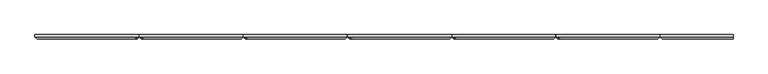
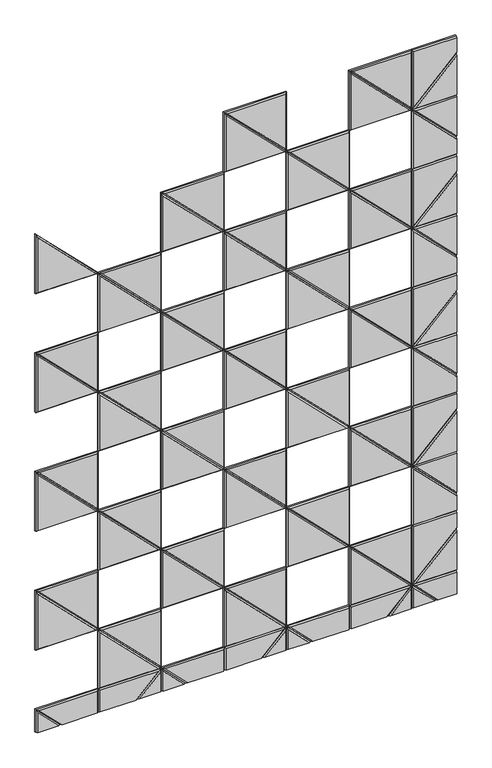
"""IFC4 building model written with IfcOpenShell, lengths in millimetres: proxy geometry, Wall_Akebia 5.3dm."""

from ifc_helpers import new_model, si_unit, origin, place, context, project, spatial, faceted_brep, source, transform, mapped, element, save


def generic_models_bfce4a0a(model_context):
    return source(origin(), model_context, "Body", "Brep", [
        faceted_brep([(4621.9486337, 12.0, 0.0), (4508.0, 12.0, 0.0), (4508.0, 12.0, 113.9486337), (4508.0, 5.999309, 113.9486337), (4621.9486337, 6.0, 0.0), (4613.4633524, 0.0, 0.0), (4513.998618, 0.0, 99.4647343), (4513.998618, 0.0, 0.0), (4508.0, 5.998618, 0.0)], [[[0, 1, 2]], [[0, 2, 3, 4]], [[5, 6, 7]], [[7, 6, 3, 8]], [[4, 3, 6, 5]], [[1, 8, 3, 2]], [[5, 7, 8, 1, 0, 4]]]),
        faceted_brep([(4621.9486337, 12.0, 0.0), (4507.998618, 12.0, 113.9500157), (4806.448618, 12.0, 113.9500157), (4806.448618, 12.0, 0.0), (4806.448618, 6.0, 113.9500157), (4507.998618, 6.0, 113.9500157), (4621.9486337, 6.0, 0.0), (4806.448618, 6.0, 0.0), (4630.4339151, 0.0, 0.0), (4800.448618, 0.0, 0.0), (4800.448618, 0.0, 107.9500157), (4522.4838994, 0.0, 107.9500157)], [[[0, 1, 2, 3]], [[4, 2, 1, 5]], [[0, 6, 5, 1]], [[7, 3, 2, 4]], [[8, 9, 10, 11]], [[4, 5, 11, 10]], [[6, 8, 11, 5]], [[9, 7, 4, 10]], [[9, 8, 6, 0, 3, 7]]]),
        faceted_brep([(5218.850088, 12.0, 0.0), (5104.898614, 12.0, 0.0), (5104.898614, 12.0, 113.951474), (5104.898614, 6.0, 0.0), (5104.898614, 6.0, 113.951474), (5218.850088, 6.0, 0.0), (5210.3648066, 0.0, 0.0), (5110.898614, 0.0, 99.4661926), (5110.898614, 0.0, 0.0)], [[[0, 1, 2]], [[3, 4, 2, 1]], [[0, 2, 4, 5]], [[6, 7, 8]], [[8, 7, 4, 3]], [[5, 4, 7, 6]], [[0, 5, 6, 8, 3, 1]]]),
        faceted_brep([(5218.850088, 12.0, 0.0), (5104.898614, 12.0, 113.951474), (5403.348614, 12.0, 113.951474), (5403.348614, 12.0, 0.0), (5403.348614, 6.0, 113.951474), (5104.898614, 6.0, 113.951474), (5218.850088, 6.0, 0.0), (5403.348614, 6.0, 0.0), (5227.3353694, 0.0, 0.0), (5397.348614, 0.0, 0.0), (5397.348614, 0.0, 107.951474), (5119.3838954, 0.0, 107.951474)], [[[0, 1, 2, 3]], [[4, 2, 1, 5]], [[0, 6, 5, 1]], [[7, 3, 2, 4]], [[8, 9, 10, 11]], [[4, 5, 11, 10]], [[6, 8, 11, 5]], [[9, 7, 4, 10]], [[0, 3, 7, 9, 8, 6]]]),
        faceted_brep([(5815.7515423, 12.0, 0.0), (5701.7988914, 12.0, 0.0), (5701.7988914, 12.0, 113.9526508), (5701.7988914, 6.0, 0.0), (5701.7988914, 6.0, 113.9526508), (5815.7515423, 6.0, 0.0), (5807.2662609, 0.0, 0.0), (5707.7988914, 0.0, 99.4673695), (5707.7988914, 0.0, 0.0)], [[[0, 1, 2]], [[3, 4, 2, 1]], [[0, 2, 4, 5]], [[6, 7, 8]], [[8, 7, 4, 3]], [[5, 4, 7, 6]], [[0, 5, 6, 8, 3, 1]]]),
        faceted_brep([(5815.7515423, 12.0, 0.0), (5701.7988914, 12.0, 113.9526508), (6000.2488914, 12.0, 113.9526508), (6000.2488914, 12.0, 0.0), (6000.2488914, 6.0, 113.9526508), (5701.7988914, 6.0, 113.9526508), (5815.7515423, 6.0, 0.0), (6000.2488914, 6.0, 0.0), (5824.2368236, 0.0, 0.0), (5994.2488914, 0.0, 0.0), (5994.2488914, 0.0, 107.9526508), (5716.2841728, 0.0, 107.9526508)], [[[0, 1, 2, 3]], [[4, 2, 1, 5]], [[0, 6, 5, 1]], [[7, 3, 2, 4]], [[8, 9, 10, 11]], [[4, 5, 11, 10]], [[6, 8, 11, 5]], [[9, 7, 4, 10]], [[0, 3, 7, 9, 8, 6]]]),
        faceted_brep([(6412.6529965, 12.0, 0.0), (6298.7017066, 12.0, 0.0), (6298.7017066, 12.0, 113.95129), (6298.7017066, 6.0, 0.0), (6298.7017066, 6.0, 113.95129), (6412.6529965, 6.0, 0.0), (6404.1677152, 0.0, 0.0), (6304.7017066, 0.0, 99.4660086), (6304.7017066, 0.0, 0.0)], [[[0, 1, 2]], [[3, 4, 2, 1]], [[0, 2, 4, 5]], [[6, 7, 8]], [[8, 7, 4, 3]], [[5, 4, 7, 6]], [[0, 5, 6, 8, 3, 1]]]),
        faceted_brep([(6508.0, 12.0, 0.0), (6412.6529965, 12.0, 0.0), (6298.7017066, 12.0, 113.95129), (6508.0, 12.0, 113.95129), (6508.0, 6.0, 113.95129), (6298.7017066, 6.0, 113.95129), (6412.6529965, 6.0, 0.0), (6421.1382779, 0.0, 0.0), (6508.0, 0.0, 0.0), (6508.0, 0.0, 107.95129), (6313.1869879, 0.0, 107.95129)], [[[0, 1, 2, 3]], [[4, 3, 2, 5]], [[1, 6, 5, 2]], [[7, 8, 9, 10]], [[9, 4, 5, 10]], [[6, 7, 10, 5]], [[7, 6, 1, 0, 8]], [[0, 3, 4, 9, 8]]]),
        faceted_brep([(6508.0, 12.0, 501.5529965), (6508.0, 12.0, 412.40129), (6298.7017066, 12.0, 412.40129), (6298.7017066, 12.0, 710.85129), (6298.7017066, 6.0, 412.40129), (6298.7017066, 6.0, 710.85129), (6508.0, 6.0, 501.5529965), (6508.0, 6.0, 412.40129), (6508.0, 0.0, 493.0677152), (6304.7017066, 0.0, 696.3660086), (6304.7017066, 0.0, 418.40129), (6508.0, 0.0, 418.40129)], [[[0, 1, 2, 3]], [[4, 5, 3, 2]], [[0, 3, 5, 6]], [[7, 4, 2, 1]], [[8, 9, 10, 11]], [[4, 10, 9, 5]], [[6, 5, 9, 8]], [[11, 10, 4, 7]], [[0, 6, 8, 11, 7, 1]]]),
        faceted_brep([(6508.0, 12.0, 501.5529965), (6298.7017066, 12.0, 710.85129), (6508.0, 12.0, 710.85129), (6508.0, 6.0, 710.85129), (6298.7017066, 6.0, 710.85129), (6508.0, 6.0, 501.5529965), (6508.0, 0.0, 510.0382779), (6508.0, 0.0, 704.85129), (6313.1869879, 0.0, 704.85129)], [[[0, 1, 2]], [[3, 2, 1, 4]], [[0, 5, 4, 1]], [[6, 7, 8]], [[7, 3, 4, 8]], [[5, 6, 8, 4]], [[0, 2, 3, 7, 6, 5]]]),
        faceted_brep([(6508.0, 12.0, 1098.4529965), (6508.0, 12.0, 1009.30129), (6298.7017066, 12.0, 1009.30129), (6298.7017066, 12.0, 1307.75129), (6298.7017066, 6.0, 1009.30129), (6298.7017066, 6.0, 1307.75129), (6508.0, 6.0, 1098.4529965), (6508.0, 6.0, 1009.30129), (6508.0, 0.0, 1089.9677152), (6304.7017066, 0.0, 1293.2660086), (6304.7017066, 0.0, 1015.30129), (6508.0, 0.0, 1015.30129)], [[[0, 1, 2, 3]], [[4, 5, 3, 2]], [[0, 3, 5, 6]], [[7, 4, 2, 1]], [[8, 9, 10, 11]], [[4, 10, 9, 5]], [[6, 5, 9, 8]], [[11, 10, 4, 7]], [[0, 6, 8, 11, 7, 1]]]),
        faceted_brep([(6508.0, 12.0, 1098.4529965), (6298.7017066, 12.0, 1307.75129), (6508.0, 12.0, 1307.75129), (6508.0, 6.0, 1307.75129), (6298.7017066, 6.0, 1307.75129), (6508.0, 6.0, 1098.4529965), (6508.0, 0.0, 1106.9382779), (6508.0, 0.0, 1301.75129), (6313.1869879, 0.0, 1301.75129)], [[[0, 1, 2]], [[3, 2, 1, 4]], [[0, 5, 4, 1]], [[6, 7, 8]], [[7, 3, 4, 8]], [[5, 6, 8, 4]], [[0, 2, 3, 7, 6, 5]]]),
        faceted_brep([(6508.0, 12.0, 1904.6518986), (6508.0, 12.0, 1695.3535333), (6298.7016346, 12.0, 1904.6518986), (6508.0, 6.0, 1695.3535333), (6298.7016346, 6.0, 1904.6518986), (6508.0, 6.0, 1904.6518986), (6508.0, 0.0, 1898.6518986), (6313.186916, 0.0, 1898.6518986), (6508.0, 0.0, 1703.8388146)], [[[0, 1, 2]], [[3, 4, 2, 1]], [[0, 2, 4, 5]], [[6, 7, 8]], [[8, 7, 4, 3]], [[5, 4, 7, 6]], [[0, 5, 6, 8, 3, 1]]]),
        faceted_brep([(6508.0, 12.0, 1606.2018986), (6298.7016346, 12.0, 1606.2018986), (6298.7016346, 12.0, 1904.6518986), (6508.0, 12.0, 1695.3535333), (6508.0, 6.0, 1606.2018986), (6298.7016346, 6.0, 1606.2018986), (6508.0, 6.0, 1695.3535333), (6298.7016346, 6.0, 1904.6518986), (6508.0, 0.0, 1612.2018986), (6508.0, 0.0, 1686.8682519), (6304.7016346, 0.0, 1890.1666173), (6304.7016346, 0.0, 1612.2018986)], [[[0, 1, 2, 3]], [[0, 4, 5, 1]], [[6, 3, 2, 7]], [[7, 2, 1, 5]], [[8, 9, 10, 11]], [[4, 8, 11, 5]], [[9, 6, 7, 10]], [[7, 5, 11, 10]], [[0, 3, 6, 9, 8, 4]]]),
        faceted_brep([(6508.0, 12.0, 2501.5518986), (6508.0, 12.0, 2292.2535333), (6298.7016346, 12.0, 2501.5518986), (6508.0, 6.0, 2292.2535333), (6298.7016346, 6.0, 2501.5518986), (6508.0, 6.0, 2501.5518986), (6508.0, 0.0, 2495.5518986), (6313.186916, 0.0, 2495.5518986), (6508.0, 0.0, 2300.7388146)], [[[0, 1, 2]], [[3, 4, 2, 1]], [[0, 2, 4, 5]], [[6, 7, 8]], [[8, 7, 4, 3]], [[5, 4, 7, 6]], [[0, 5, 6, 8, 3, 1]]]),
        faceted_brep([(6508.0, 12.0, 2203.1018986), (6298.7016346, 12.0, 2203.1018986), (6298.7016346, 12.0, 2501.5518986), (6508.0, 12.0, 2292.2535333), (6508.0, 6.0, 2203.1018986), (6298.7016346, 6.0, 2203.1018986), (6508.0, 6.0, 2292.2535333), (6298.7016346, 6.0, 2501.5518986), (6508.0, 0.0, 2209.1018986), (6508.0, 0.0, 2283.7682519), (6304.7016346, 0.0, 2487.0666173), (6304.7016346, 0.0, 2209.1018986)], [[[0, 1, 2, 3]], [[0, 4, 5, 1]], [[6, 3, 2, 7]], [[7, 2, 1, 5]], [[8, 9, 10, 11]], [[4, 8, 11, 5]], [[9, 6, 7, 10]], [[7, 5, 11, 10]], [[0, 3, 6, 9, 8, 4]]]),
        faceted_brep([(4806.45, 12.0, 0.0), (4806.45, 12.0, 113.95), (5104.9, 12.0, 113.95), (4990.95, 12.0, 0.0), (4806.45, 6.0, 0.0), (4806.45, 6.0, 113.95), (4990.95, 6.0, 0.0), (5104.9, 6.0, 113.95), (4812.45, 0.0, 0.0), (4982.4647186, 0.0, 0.0), (5090.4147186, 0.0, 107.95), (4812.45, 0.0, 107.95)], [[[0, 1, 2, 3]], [[0, 4, 5, 1]], [[6, 3, 2, 7]], [[7, 2, 1, 5]], [[8, 9, 10, 11]], [[4, 8, 11, 5]], [[9, 6, 7, 10]], [[7, 5, 11, 10]], [[0, 3, 6, 9, 8, 4]]]),
        faceted_brep([(6000.2513663, 12.0, 0.0), (6000.2513663, 12.0, 113.9515583), (6298.7013663, 12.0, 113.9515583), (6184.7498079, 12.0, 0.0), (6000.2513663, 6.0, 0.0), (6000.2513663, 6.0, 113.9515583), (6184.7498079, 6.0, 0.0), (6298.7013663, 6.0, 113.9515583), (6006.2513663, 0.0, 0.0), (6176.2645266, 0.0, 0.0), (6284.2160849, 0.0, 107.9515583), (6006.2513663, 0.0, 107.9515583)], [[[0, 1, 2, 3]], [[0, 4, 5, 1]], [[6, 3, 2, 7]], [[7, 2, 1, 5]], [[8, 9, 10, 11]], [[4, 8, 11, 5]], [[9, 6, 7, 10]], [[7, 5, 11, 10]], [[0, 3, 6, 9, 8, 4]]]),
        faceted_brep([(6298.7013663, 12.0, 0.0), (6184.7498079, 12.0, 0.0), (6298.7013663, 12.0, 113.9515583), (6184.7498079, 6.0, 0.0), (6298.7013663, 6.0, 113.9515583), (6298.7013663, 6.0, 0.0), (6292.7013663, 0.0, 0.0), (6292.7013663, 0.0, 99.4662769), (6193.2350893, 0.0, 0.0)], [[[0, 1, 2]], [[3, 4, 2, 1]], [[0, 2, 4, 5]], [[6, 7, 8]], [[8, 7, 4, 3]], [[5, 4, 7, 6]], [[0, 5, 6, 8, 3, 1]]]),
        faceted_brep([(5403.3506831, 12.0, 0.0), (5403.3506831, 12.0, 113.9507792), (5701.8006831, 12.0, 113.9507792), (5587.849904, 12.0, 0.0), (5403.3506831, 6.0, 0.0), (5403.3506831, 6.0, 113.9507792), (5587.849904, 6.0, 0.0), (5701.8006831, 6.0, 113.9507792), (5409.3506831, 0.0, 0.0), (5579.3646226, 0.0, 0.0), (5687.3154018, 0.0, 107.9507792), (5409.3506831, 0.0, 107.9507792)], [[[0, 1, 2, 3]], [[0, 4, 5, 1]], [[6, 3, 2, 7]], [[7, 2, 1, 5]], [[8, 9, 10, 11]], [[4, 8, 11, 5]], [[9, 6, 7, 10]], [[7, 5, 11, 10]], [[0, 3, 6, 9, 8, 4]]]),
        faceted_brep([(5701.8006831, 12.0, 0.0), (5587.849904, 12.0, 0.0), (5701.8006831, 12.0, 113.9507792), (5587.849904, 6.0, 0.0), (5701.8006831, 6.0, 113.9507792), (5701.8006831, 6.0, 0.0), (5695.8006831, 0.0, 0.0), (5695.8006831, 0.0, 99.4654978), (5596.3351853, 0.0, 0.0)], [[[0, 1, 2]], [[3, 4, 2, 1]], [[0, 2, 4, 5]], [[6, 7, 8]], [[8, 7, 4, 3]], [[5, 4, 7, 6]], [[0, 5, 6, 8, 3, 1]]]),
        faceted_brep([(5104.9, 12.0, 0.0), (4990.95, 12.0, 0.0), (5104.9, 12.0, 113.95), (4990.95, 6.0, 0.0), (5104.9, 6.0, 113.95), (5104.9, 6.0, 0.0), (5098.9, 0.0, 0.0), (5098.9, 0.0, 99.4647186), (4999.4352814, 0.0, 0.0)], [[[0, 1, 2]], [[3, 4, 2, 1]], [[0, 2, 4, 5]], [[6, 7, 8]], [[8, 7, 4, 3]], [[5, 4, 7, 6]], [[0, 5, 6, 8, 3, 1]]]),
        faceted_brep([(6508.0, 12.0, 113.9515583), (6298.7013663, 12.0, 113.9515583), (6508.0, 12.0, 323.2501921), (6508.0, 6.0, 323.2501921), (6298.7013663, 6.0, 113.9515583), (6508.0, 6.0, 113.9515583), (6508.0, 0.0, 119.9515583), (6508.0, 0.0, 314.7649107), (6313.1866476, 0.0, 119.9515583)], [[[0, 1, 2]], [[3, 2, 1, 4]], [[0, 5, 4, 1]], [[6, 7, 8]], [[7, 3, 4, 8]], [[5, 6, 8, 4]], [[0, 2, 3, 7, 6, 5]]]),
        faceted_brep([(6508.0, 12.0, 412.4015583), (6508.0, 12.0, 323.2501921), (6298.7013663, 12.0, 113.9515583), (6298.7013663, 12.0, 412.4015583), (6298.7013663, 6.0, 412.4015583), (6508.0, 6.0, 412.4015583), (6508.0, 6.0, 323.2501921), (6298.7013663, 6.0, 113.9515583), (6508.0, 0.0, 406.4015583), (6304.7013663, 0.0, 406.4015583), (6304.7013663, 0.0, 128.4368397), (6508.0, 0.0, 331.7354734)], [[[0, 1, 2, 3]], [[0, 3, 4, 5]], [[6, 7, 2, 1]], [[7, 4, 3, 2]], [[8, 9, 10, 11]], [[5, 4, 9, 8]], [[11, 10, 7, 6]], [[7, 10, 9, 4]], [[0, 5, 8, 11, 6, 1]]]),
        faceted_brep([(6508.0, 12.0, 710.8515583), (6298.7013663, 12.0, 710.8515583), (6508.0, 12.0, 920.1501921), (6508.0, 6.0, 920.1501921), (6298.7013663, 6.0, 710.8515583), (6508.0, 6.0, 710.8515583), (6508.0, 0.0, 716.8515583), (6508.0, 0.0, 911.6649107), (6313.1866476, 0.0, 716.8515583)], [[[0, 1, 2]], [[3, 2, 1, 4]], [[0, 5, 4, 1]], [[6, 7, 8]], [[7, 3, 4, 8]], [[5, 6, 8, 4]], [[0, 2, 3, 7, 6, 5]]]),
        faceted_brep([(6508.0, 12.0, 1009.3015583), (6508.0, 12.0, 920.1501921), (6298.7013663, 12.0, 710.8515583), (6298.7013663, 12.0, 1009.3015583), (6298.7013663, 6.0, 1009.3015583), (6508.0, 6.0, 1009.3015583), (6508.0, 6.0, 920.1501921), (6298.7013663, 6.0, 710.8515583), (6508.0, 0.0, 1003.3015583), (6304.7013663, 0.0, 1003.3015583), (6304.7013663, 0.0, 725.3368397), (6508.0, 0.0, 928.6354734)], [[[0, 1, 2, 3]], [[0, 3, 4, 5]], [[6, 7, 2, 1]], [[7, 4, 3, 2]], [[8, 9, 10, 11]], [[5, 4, 9, 8]], [[11, 10, 7, 6]], [[7, 10, 9, 4]], [[0, 5, 8, 11, 6, 1]]]),
        faceted_brep([(6508.0, 12.0, 1307.7515583), (6298.7013663, 12.0, 1307.7515583), (6508.0, 12.0, 1517.0501921), (6508.0, 6.0, 1517.0501921), (6298.7013663, 6.0, 1307.7515583), (6508.0, 6.0, 1307.7515583), (6508.0, 0.0, 1313.7515583), (6508.0, 0.0, 1508.5649107), (6313.1866476, 0.0, 1313.7515583)], [[[0, 1, 2]], [[3, 2, 1, 4]], [[0, 5, 4, 1]], [[6, 7, 8]], [[7, 3, 4, 8]], [[5, 6, 8, 4]], [[0, 2, 3, 7, 6, 5]]]),
        faceted_brep([(6508.0, 12.0, 1606.2015583), (6508.0, 12.0, 1517.0501921), (6298.7013663, 12.0, 1307.7515583), (6298.7013663, 12.0, 1606.2015583), (6298.7013663, 6.0, 1606.2015583), (6508.0, 6.0, 1606.2015583), (6508.0, 6.0, 1517.0501921), (6298.7013663, 6.0, 1307.7515583), (6508.0, 0.0, 1600.2015583), (6304.7013663, 0.0, 1600.2015583), (6304.7013663, 0.0, 1322.2368397), (6508.0, 0.0, 1525.5354734)], [[[0, 1, 2, 3]], [[0, 3, 4, 5]], [[6, 7, 2, 1]], [[7, 4, 3, 2]], [[8, 9, 10, 11]], [[5, 4, 9, 8]], [[11, 10, 7, 6]], [[7, 10, 9, 4]], [[0, 5, 8, 11, 6, 1]]]),
        faceted_brep([(6508.0, 12.0, 1904.6515583), (6298.7013663, 12.0, 1904.6515583), (6508.0, 12.0, 2113.9501921), (6508.0, 6.0, 2113.9501921), (6298.7013663, 6.0, 1904.6515583), (6508.0, 6.0, 1904.6515583), (6508.0, 0.0, 1910.6515583), (6508.0, 0.0, 2105.4649107), (6313.1866476, 0.0, 1910.6515583)], [[[0, 1, 2]], [[3, 2, 1, 4]], [[0, 5, 4, 1]], [[6, 7, 8]], [[7, 3, 4, 8]], [[5, 6, 8, 4]], [[0, 2, 3, 7, 6, 5]]]),
        faceted_brep([(6508.0, 12.0, 2203.1015583), (6508.0, 12.0, 2113.9501921), (6298.7013663, 12.0, 1904.6515583), (6298.7013663, 12.0, 2203.1015583), (6298.7013663, 6.0, 2203.1015583), (6508.0, 6.0, 2203.1015583), (6508.0, 6.0, 2113.9501921), (6298.7013663, 6.0, 1904.6515583), (6508.0, 0.0, 2197.1015583), (6304.7013663, 0.0, 2197.1015583), (6304.7013663, 0.0, 1919.1368397), (6508.0, 0.0, 2122.4354734)], [[[0, 1, 2, 3]], [[0, 3, 4, 5]], [[6, 7, 2, 1]], [[7, 4, 3, 2]], [[8, 9, 10, 11]], [[5, 4, 9, 8]], [[11, 10, 7, 6]], [[7, 10, 9, 4]], [[0, 5, 8, 11, 6, 1]]]),
        faceted_brep([(6508.0, 12.0, 2501.5515583), (6298.7013663, 12.0, 2501.5515583), (6508.0, 12.0, 2710.8501921), (6508.0, 6.0, 2710.8501921), (6298.7013663, 6.0, 2501.5515583), (6508.0, 6.0, 2501.5515583), (6508.0, 0.0, 2507.5515583), (6508.0, 0.0, 2702.3649107), (6313.1866476, 0.0, 2507.5515583)], [[[0, 1, 2]], [[3, 2, 1, 4]], [[0, 5, 4, 1]], [[6, 7, 8]], [[7, 3, 4, 8]], [[5, 6, 8, 4]], [[0, 2, 3, 7, 6, 5]]]),
        faceted_brep([(6508.0, 12.0, 2800.0), (6508.0, 12.0, 2710.8501921), (6298.7013663, 12.0, 2501.5515583), (6298.7013663, 12.0, 2800.0), (6508.0, 6.0, 2710.8501921), (6298.7013663, 6.0, 2501.5515583), (6298.7013663, 6.0, 2800.0002597), (6508.0, 0.0, 2794.0015583), (6304.7013663, 0.0, 2794.0015583), (6304.7013663, 0.0, 2516.0368397), (6508.0, 0.0, 2719.3354734), (6508.0, 5.9984417, 2800.0)], [[[0, 1, 2, 3]], [[4, 5, 2, 1]], [[5, 6, 3, 2]], [[7, 8, 9, 10]], [[11, 6, 8, 7]], [[10, 9, 5, 4]], [[5, 9, 8, 6]], [[0, 11, 7, 10, 4, 1]], [[3, 6, 11, 0]]]),
        faceted_brep([(6298.6984538, 12.0, 412.4029924), (6298.6984538, 12.0, 113.9529924), (6000.2484538, 12.0, 412.4029924), (6298.6984538, 6.0, 412.4029924), (6298.6984538, 6.0, 113.9529924), (6000.2484538, 6.0, 412.4029924), (6014.7337352, 0.0, 406.4029924), (6292.6984538, 0.0, 128.4382738), (6292.6984538, 0.0, 406.4029924)], [[[0, 1, 2]], [[3, 4, 1, 0]], [[4, 5, 2, 1]], [[5, 3, 0, 2]], [[6, 7, 8]], [[3, 8, 7, 4]], [[4, 7, 6, 5]], [[5, 6, 8, 3]]]),
        faceted_brep([(6000.2484538, 12.0, 113.9529924), (6000.2484538, 12.0, 412.4029924), (6298.6984538, 12.0, 113.9529924), (6000.2484538, 6.0, 113.9529924), (6298.6984538, 6.0, 113.9529924), (6000.2484538, 6.0, 412.4029924), (6006.2484538, 0.0, 397.917711), (6006.2484538, 0.0, 119.9529924), (6284.2131724, 0.0, 119.9529924)], [[[0, 1, 2]], [[3, 0, 2, 4]], [[4, 2, 1, 5]], [[5, 1, 0, 3]], [[6, 7, 8]], [[3, 4, 8, 7]], [[4, 5, 6, 8]], [[5, 3, 7, 6]]]),
        faceted_brep([(5701.7981163, 12.0, 412.4018757), (5701.7981163, 12.0, 113.9518757), (5403.3481163, 12.0, 412.4018757), (5701.7981163, 6.0, 412.4018757), (5701.7981163, 6.0, 113.9518757), (5403.3481163, 6.0, 412.4018757), (5417.8333976, 0.0, 406.4018757), (5695.7981163, 0.0, 128.4371571), (5695.7981163, 0.0, 406.4018757)], [[[0, 1, 2]], [[3, 4, 1, 0]], [[4, 5, 2, 1]], [[5, 3, 0, 2]], [[6, 7, 8]], [[3, 8, 7, 4]], [[4, 7, 6, 5]], [[5, 6, 8, 3]]]),
        faceted_brep([(5403.3481163, 12.0, 113.9518757), (5403.3481163, 12.0, 412.4018757), (5701.7981163, 12.0, 113.9518757), (5403.3481163, 6.0, 113.9518757), (5701.7981163, 6.0, 113.9518757), (5403.3481163, 6.0, 412.4018757), (5409.3481163, 0.0, 397.9165943), (5409.3481163, 0.0, 119.9518757), (5687.3128349, 0.0, 119.9518757)], [[[0, 1, 2]], [[3, 0, 2, 4]], [[4, 2, 1, 5]], [[5, 1, 0, 3]], [[6, 7, 8]], [[3, 4, 8, 7]], [[4, 5, 6, 8]], [[5, 3, 7, 6]]]),
        faceted_brep([(5104.8978389, 12.0, 412.4006988), (5104.8978389, 12.0, 113.9506988), (4806.4478389, 12.0, 412.4006988), (5104.8978389, 6.0, 412.4006988), (5104.8978389, 6.0, 113.9506988), (4806.4478389, 6.0, 412.4006988), (4820.9331202, 0.0, 406.4006988), (5098.8978389, 0.0, 128.4359802), (5098.8978389, 0.0, 406.4006988)], [[[0, 1, 2]], [[3, 4, 1, 0]], [[4, 5, 2, 1]], [[5, 3, 0, 2]], [[6, 7, 8]], [[3, 8, 7, 4]], [[4, 7, 6, 5]], [[5, 6, 8, 3]]]),
        faceted_brep([(4806.4478389, 12.0, 113.9506988), (4806.4478389, 12.0, 412.4006988), (5104.8978389, 12.0, 113.9506988), (4806.4478389, 6.0, 113.9506988), (5104.8978389, 6.0, 113.9506988), (4806.4478389, 6.0, 412.4006988), (4812.4478389, 0.0, 397.9154175), (4812.4478389, 0.0, 119.9506988), (5090.4125575, 0.0, 119.9506988)], [[[0, 1, 2]], [[3, 0, 2, 4]], [[4, 2, 1, 5]], [[5, 1, 0, 3]], [[6, 7, 8]], [[3, 4, 8, 7]], [[4, 5, 6, 8]], [[5, 3, 7, 6]]]),
        faceted_brep([(4507.998618, 12.0, 412.4000157), (4507.998618, 12.0, 710.8500157), (4806.448618, 12.0, 412.4000157), (4507.998618, 6.0, 412.4000157), (4507.998618, 6.0, 710.8500157), (4806.448618, 6.0, 412.4000157), (4791.9633367, 0.0, 418.4000157), (4513.998618, 0.0, 696.3647343), (4513.998618, 0.0, 418.4000157)], [[[0, 1, 2]], [[3, 4, 1, 0]], [[4, 5, 2, 1]], [[5, 3, 0, 2]], [[6, 7, 8]], [[3, 8, 7, 4]], [[4, 7, 6, 5]], [[5, 6, 8, 3]]]),
        faceted_brep([(4806.448618, 12.0, 710.8500157), (4806.448618, 12.0, 412.4000157), (4507.998618, 12.0, 710.8500157), (4806.448618, 6.0, 710.8500157), (4507.998618, 6.0, 710.8500157), (4806.448618, 6.0, 412.4000157), (4800.448618, 0.0, 426.8852971), (4800.448618, 0.0, 704.8500157), (4522.4838994, 0.0, 704.8500157)], [[[0, 1, 2]], [[3, 0, 2, 4]], [[4, 2, 1, 5]], [[5, 1, 0, 3]], [[6, 7, 8]], [[3, 4, 8, 7]], [[4, 5, 6, 8]], [[5, 3, 7, 6]]]),
        faceted_brep([(5104.898614, 12.0, 412.401474), (5104.898614, 12.0, 710.851474), (5403.348614, 12.0, 412.401474), (5104.898614, 6.0, 412.401474), (5104.898614, 6.0, 710.851474), (5403.348614, 6.0, 412.401474), (5388.8633326, 0.0, 418.401474), (5110.898614, 0.0, 696.3661926), (5110.898614, 0.0, 418.401474)], [[[0, 1, 2]], [[3, 4, 1, 0]], [[4, 5, 2, 1]], [[5, 3, 0, 2]], [[6, 7, 8]], [[3, 8, 7, 4]], [[4, 7, 6, 5]], [[5, 6, 8, 3]]]),
        faceted_brep([(5403.348614, 12.0, 710.851474), (5403.348614, 12.0, 412.401474), (5104.898614, 12.0, 710.851474), (5403.348614, 6.0, 710.851474), (5104.898614, 6.0, 710.851474), (5403.348614, 6.0, 412.401474), (5397.348614, 0.0, 426.8867554), (5397.348614, 0.0, 704.851474), (5119.3838954, 0.0, 704.851474)], [[[0, 1, 2]], [[3, 0, 2, 4]], [[4, 2, 1, 5]], [[5, 1, 0, 3]], [[6, 7, 8]], [[3, 4, 8, 7]], [[4, 5, 6, 8]], [[5, 3, 7, 6]]]),
        faceted_brep([(5701.7988914, 12.0, 412.4026508), (5701.7988914, 12.0, 710.8526508), (6000.2488914, 12.0, 412.4026508), (5701.7988914, 6.0, 412.4026508), (5701.7988914, 6.0, 710.8526508), (6000.2488914, 6.0, 412.4026508), (5985.76361, 0.0, 418.4026508), (5707.7988914, 0.0, 696.3673695), (5707.7988914, 0.0, 418.4026508)], [[[0, 1, 2]], [[3, 4, 1, 0]], [[4, 5, 2, 1]], [[5, 3, 0, 2]], [[6, 7, 8]], [[3, 8, 7, 4]], [[4, 7, 6, 5]], [[5, 6, 8, 3]]]),
        faceted_brep([(6000.2488914, 12.0, 710.8526508), (6000.2488914, 12.0, 412.4026508), (5701.7988914, 12.0, 710.8526508), (6000.2488914, 6.0, 710.8526508), (5701.7988914, 6.0, 710.8526508), (6000.2488914, 6.0, 412.4026508), (5994.2488914, 0.0, 426.8879322), (5994.2488914, 0.0, 704.8526508), (5716.2841728, 0.0, 704.8526508)], [[[0, 1, 2]], [[3, 0, 2, 4]], [[4, 2, 1, 5]], [[5, 1, 0, 3]], [[6, 7, 8]], [[3, 4, 8, 7]], [[4, 5, 6, 8]], [[5, 3, 7, 6]]]),
        faceted_brep([(6298.6984538, 12.0, 1009.3029924), (6298.6984538, 12.0, 710.8529924), (6000.2484538, 12.0, 1009.3029924), (6298.6984538, 6.0, 1009.3029924), (6298.6984538, 6.0, 710.8529924), (6000.2484538, 6.0, 1009.3029924), (6014.7337352, 0.0, 1003.3029924), (6292.6984538, 0.0, 725.3382738), (6292.6984538, 0.0, 1003.3029924)], [[[0, 1, 2]], [[3, 4, 1, 0]], [[4, 5, 2, 1]], [[5, 3, 0, 2]], [[6, 7, 8]], [[3, 8, 7, 4]], [[4, 7, 6, 5]], [[5, 6, 8, 3]]]),
        faceted_brep([(6000.2484538, 12.0, 710.8529924), (6000.2484538, 12.0, 1009.3029924), (6298.6984538, 12.0, 710.8529924), (6000.2484538, 6.0, 710.8529924), (6298.6984538, 6.0, 710.8529924), (6000.2484538, 6.0, 1009.3029924), (6006.2484538, 0.0, 994.817711), (6006.2484538, 0.0, 716.8529924), (6284.2131724, 0.0, 716.8529924)], [[[0, 1, 2]], [[3, 0, 2, 4]], [[4, 2, 1, 5]], [[5, 1, 0, 3]], [[6, 7, 8]], [[3, 4, 8, 7]], [[4, 5, 6, 8]], [[5, 3, 7, 6]]]),
        faceted_brep([(5701.7981163, 12.0, 1009.3018757), (5701.7981163, 12.0, 710.8518757), (5403.3481163, 12.0, 1009.3018757), (5701.7981163, 6.0, 1009.3018757), (5701.7981163, 6.0, 710.8518757), (5403.3481163, 6.0, 1009.3018757), (5417.8333976, 0.0, 1003.3018757), (5695.7981163, 0.0, 725.3371571), (5695.7981163, 0.0, 1003.3018757)], [[[0, 1, 2]], [[3, 4, 1, 0]], [[4, 5, 2, 1]], [[5, 3, 0, 2]], [[6, 7, 8]], [[3, 8, 7, 4]], [[4, 7, 6, 5]], [[5, 6, 8, 3]]]),
        faceted_brep([(5403.3481163, 12.0, 710.8518757), (5403.3481163, 12.0, 1009.3018757), (5701.7981163, 12.0, 710.8518757), (5403.3481163, 6.0, 710.8518757), (5701.7981163, 6.0, 710.8518757), (5403.3481163, 6.0, 1009.3018757), (5409.3481163, 0.0, 994.8165943), (5409.3481163, 0.0, 716.8518757), (5687.3128349, 0.0, 716.8518757)], [[[0, 1, 2]], [[3, 0, 2, 4]], [[4, 2, 1, 5]], [[5, 1, 0, 3]], [[6, 7, 8]], [[3, 4, 8, 7]], [[4, 5, 6, 8]], [[5, 3, 7, 6]]]),
        faceted_brep([(5104.8978389, 12.0, 1009.3006988), (5104.8978389, 12.0, 710.8506988), (4806.4478389, 12.0, 1009.3006988), (5104.8978389, 6.0, 1009.3006988), (5104.8978389, 6.0, 710.8506988), (4806.4478389, 6.0, 1009.3006988), (4820.9331202, 0.0, 1003.3006988), (5098.8978389, 0.0, 725.3359802), (5098.8978389, 0.0, 1003.3006988)], [[[0, 1, 2]], [[3, 4, 1, 0]], [[4, 5, 2, 1]], [[5, 3, 0, 2]], [[6, 7, 8]], [[3, 8, 7, 4]], [[4, 7, 6, 5]], [[5, 6, 8, 3]]]),
        faceted_brep([(4806.4478389, 12.0, 710.8506988), (4806.4478389, 12.0, 1009.3006988), (5104.8978389, 12.0, 710.8506988), (4806.4478389, 6.0, 710.8506988), (5104.8978389, 6.0, 710.8506988), (4806.4478389, 6.0, 1009.3006988), (4812.4478389, 0.0, 994.8154175), (4812.4478389, 0.0, 716.8506988), (5090.4125575, 0.0, 716.8506988)], [[[0, 1, 2]], [[3, 0, 2, 4]], [[4, 2, 1, 5]], [[5, 1, 0, 3]], [[6, 7, 8]], [[3, 4, 8, 7]], [[4, 5, 6, 8]], [[5, 3, 7, 6]]]),
        faceted_brep([(6000.2488114, 12.0, 1307.7489874), (6000.2488114, 12.0, 1009.2989874), (5701.7988114, 12.0, 1307.7489874), (6000.2488114, 6.0, 1307.7489874), (6000.2488114, 6.0, 1009.2989874), (5701.7988114, 6.0, 1307.7489874), (5716.2840928, 0.0, 1301.7489874), (5994.2488114, 0.0, 1023.7842688), (5994.2488114, 0.0, 1301.7489874)], [[[0, 1, 2]], [[3, 4, 1, 0]], [[4, 5, 2, 1]], [[5, 3, 0, 2]], [[6, 7, 8]], [[3, 8, 7, 4]], [[4, 7, 6, 5]], [[5, 6, 8, 3]]]),
        faceted_brep([(5701.7988114, 12.0, 1009.2989874), (5701.7988114, 12.0, 1307.7489874), (6000.2488114, 12.0, 1009.2989874), (5701.7988114, 6.0, 1009.2989874), (6000.2488114, 6.0, 1009.2989874), (5701.7988114, 6.0, 1307.7489874), (5707.7988114, 0.0, 1293.2637061), (5707.7988114, 0.0, 1015.2989874), (5985.7635301, 0.0, 1015.2989874)], [[[0, 1, 2]], [[3, 0, 2, 4]], [[4, 2, 1, 5]], [[5, 1, 0, 3]], [[6, 7, 8]], [[3, 4, 8, 7]], [[4, 5, 6, 8]], [[5, 3, 7, 6]]]),
        faceted_brep([(5403.348526, 12.0, 1307.748614), (5403.348526, 12.0, 1009.298614), (5104.898526, 12.0, 1307.748614), (5403.348526, 6.0, 1307.748614), (5403.348526, 6.0, 1009.298614), (5104.898526, 6.0, 1307.748614), (5119.3838074, 0.0, 1301.748614), (5397.348526, 0.0, 1023.7838954), (5397.348526, 0.0, 1301.748614)], [[[0, 1, 2]], [[3, 4, 1, 0]], [[4, 5, 2, 1]], [[5, 3, 0, 2]], [[6, 7, 8]], [[3, 8, 7, 4]], [[4, 7, 6, 5]], [[5, 6, 8, 3]]]),
        faceted_brep([(5104.898526, 12.0, 1009.298614), (5104.898526, 12.0, 1307.748614), (5403.348526, 12.0, 1009.298614), (5104.898526, 6.0, 1009.298614), (5403.348526, 6.0, 1009.298614), (5104.898526, 6.0, 1307.748614), (5110.898526, 0.0, 1293.2633326), (5110.898526, 0.0, 1015.298614), (5388.8632446, 0.0, 1015.298614)], [[[0, 1, 2]], [[3, 0, 2, 4]], [[4, 2, 1, 5]], [[5, 1, 0, 3]], [[6, 7, 8]], [[3, 4, 8, 7]], [[4, 5, 6, 8]], [[5, 3, 7, 6]]]),
        faceted_brep([(4507.998618, 12.0, 1009.3000157), (4507.998618, 12.0, 1307.7500157), (4806.448618, 12.0, 1009.3000157), (4507.998618, 6.0, 1009.3000157), (4507.998618, 6.0, 1307.7500157), (4806.448618, 6.0, 1009.3000157), (4791.9633367, 0.0, 1015.3000157), (4513.998618, 0.0, 1293.2647343), (4513.998618, 0.0, 1015.3000157)], [[[0, 1, 2]], [[3, 4, 1, 0]], [[4, 5, 2, 1]], [[5, 3, 0, 2]], [[6, 7, 8]], [[3, 8, 7, 4]], [[4, 7, 6, 5]], [[5, 6, 8, 3]]]),
        faceted_brep([(4806.448618, 12.0, 1307.7500157), (4806.448618, 12.0, 1009.3000157), (4507.998618, 12.0, 1307.7500157), (4806.448618, 6.0, 1307.7500157), (4507.998618, 6.0, 1307.7500157), (4806.448618, 6.0, 1009.3000157), (4800.448618, 0.0, 1023.7852971), (4800.448618, 0.0, 1301.7500157), (4522.4838994, 0.0, 1301.7500157)], [[[0, 1, 2]], [[3, 0, 2, 4]], [[4, 2, 1, 5]], [[5, 1, 0, 3]], [[6, 7, 8]], [[3, 4, 8, 7]], [[4, 5, 6, 8]], [[5, 3, 7, 6]]]),
        faceted_brep([(4806.4493012, 12.0, 1307.7478389), (4806.4493012, 12.0, 1606.1978389), (5104.8993012, 12.0, 1307.7478389), (4806.4493012, 6.0, 1307.7478389), (4806.4493012, 6.0, 1606.1978389), (5104.8993012, 6.0, 1307.7478389), (5090.4140198, 0.0, 1313.7478389), (4812.4493012, 0.0, 1591.7125575), (4812.4493012, 0.0, 1313.7478389)], [[[0, 1, 2]], [[3, 4, 1, 0]], [[4, 5, 2, 1]], [[5, 3, 0, 2]], [[6, 7, 8]], [[3, 8, 7, 4]], [[4, 7, 6, 5]], [[5, 6, 8, 3]]]),
        faceted_brep([(5104.8993012, 12.0, 1606.1978389), (5104.8993012, 12.0, 1307.7478389), (4806.4493012, 12.0, 1606.1978389), (5104.8993012, 6.0, 1606.1978389), (4806.4493012, 6.0, 1606.1978389), (5104.8993012, 6.0, 1307.7478389), (5098.8993012, 0.0, 1322.2331202), (5098.8993012, 0.0, 1600.1978389), (4820.9345825, 0.0, 1600.1978389)], [[[0, 1, 2]], [[3, 0, 2, 4]], [[4, 2, 1, 5]], [[5, 1, 0, 3]], [[6, 7, 8]], [[3, 4, 8, 7]], [[4, 5, 6, 8]], [[5, 3, 7, 6]]]),
        faceted_brep([(5403.3495866, 12.0, 1307.7482123), (5403.3495866, 12.0, 1606.1982123), (5701.7995866, 12.0, 1307.7482123), (5403.3495866, 6.0, 1307.7482123), (5403.3495866, 6.0, 1606.1982123), (5701.7995866, 6.0, 1307.7482123), (5687.3143052, 0.0, 1313.7482123), (5409.3495866, 0.0, 1591.7129309), (5409.3495866, 0.0, 1313.7482123)], [[[0, 1, 2]], [[3, 4, 1, 0]], [[4, 5, 2, 1]], [[5, 3, 0, 2]], [[6, 7, 8]], [[3, 8, 7, 4]], [[4, 7, 6, 5]], [[5, 6, 8, 3]]]),
        faceted_brep([(5701.7995866, 12.0, 1606.1982123), (5701.7995866, 12.0, 1307.7482123), (5403.3495866, 12.0, 1606.1982123), (5701.7995866, 6.0, 1606.1982123), (5403.3495866, 6.0, 1606.1982123), (5701.7995866, 6.0, 1307.7482123), (5695.7995866, 0.0, 1322.2334937), (5695.7995866, 0.0, 1600.1982123), (5417.834868, 0.0, 1600.1982123)], [[[0, 1, 2]], [[3, 0, 2, 4]], [[4, 2, 1, 5]], [[5, 1, 0, 3]], [[6, 7, 8]], [[3, 4, 8, 7]], [[4, 5, 6, 8]], [[5, 3, 7, 6]]]),
        faceted_brep([(6000.2499322, 12.0, 1307.7486459), (6000.2499322, 12.0, 1606.1986459), (6298.6999322, 12.0, 1307.7486459), (6000.2499322, 6.0, 1307.7486459), (6000.2499322, 6.0, 1606.1986459), (6298.6999322, 6.0, 1307.7486459), (6284.2146508, 0.0, 1313.7486459), (6006.2499322, 0.0, 1591.7133645), (6006.2499322, 0.0, 1313.7486459)], [[[0, 1, 2]], [[3, 4, 1, 0]], [[4, 5, 2, 1]], [[5, 3, 0, 2]], [[6, 7, 8]], [[3, 8, 7, 4]], [[4, 7, 6, 5]], [[5, 6, 8, 3]]]),
        faceted_brep([(6298.6999322, 12.0, 1606.1986459), (6298.6999322, 12.0, 1307.7486459), (6000.2499322, 12.0, 1606.1986459), (6298.6999322, 6.0, 1606.1986459), (6000.2499322, 6.0, 1606.1986459), (6298.6999322, 6.0, 1307.7486459), (6292.6999322, 0.0, 1322.2339272), (6292.6999322, 0.0, 1600.1986459), (6014.7352136, 0.0, 1600.1986459)], [[[0, 1, 2]], [[3, 0, 2, 4]], [[4, 2, 1, 5]], [[5, 1, 0, 3]], [[6, 7, 8]], [[3, 4, 8, 7]], [[4, 5, 6, 8]], [[5, 3, 7, 6]]]),
        faceted_brep([(6000.2488114, 12.0, 1904.6489874), (6000.2488114, 12.0, 1606.1989874), (5701.7988114, 12.0, 1904.6489874), (6000.2488114, 6.0, 1904.6489874), (6000.2488114, 6.0, 1606.1989874), (5701.7988114, 6.0, 1904.6489874), (5716.2840928, 0.0, 1898.6489874), (5994.2488114, 0.0, 1620.6842688), (5994.2488114, 0.0, 1898.6489874)], [[[0, 1, 2]], [[3, 4, 1, 0]], [[4, 5, 2, 1]], [[5, 3, 0, 2]], [[6, 7, 8]], [[3, 8, 7, 4]], [[4, 7, 6, 5]], [[5, 6, 8, 3]]]),
        faceted_brep([(5701.7988114, 12.0, 1606.1989874), (5701.7988114, 12.0, 1904.6489874), (6000.2488114, 12.0, 1606.1989874), (5701.7988114, 6.0, 1606.1989874), (6000.2488114, 6.0, 1606.1989874), (5701.7988114, 6.0, 1904.6489874), (5707.7988114, 0.0, 1890.1637061), (5707.7988114, 0.0, 1612.1989874), (5985.7635301, 0.0, 1612.1989874)], [[[0, 1, 2]], [[3, 0, 2, 4]], [[4, 2, 1, 5]], [[5, 1, 0, 3]], [[6, 7, 8]], [[3, 4, 8, 7]], [[4, 5, 6, 8]], [[5, 3, 7, 6]]]),
        faceted_brep([(5104.898614, 12.0, 1606.201474), (5104.898614, 12.0, 1904.651474), (5403.348614, 12.0, 1606.201474), (5104.898614, 6.0, 1606.201474), (5104.898614, 6.0, 1904.651474), (5403.348614, 6.0, 1606.201474), (5388.8633326, 0.0, 1612.201474), (5110.898614, 0.0, 1890.1661926), (5110.898614, 0.0, 1612.201474)], [[[0, 1, 2]], [[3, 4, 1, 0]], [[4, 5, 2, 1]], [[5, 3, 0, 2]], [[6, 7, 8]], [[3, 8, 7, 4]], [[4, 7, 6, 5]], [[5, 6, 8, 3]]]),
        faceted_brep([(5403.348614, 12.0, 1904.651474), (5403.348614, 12.0, 1606.201474), (5104.898614, 12.0, 1904.651474), (5403.348614, 6.0, 1904.651474), (5104.898614, 6.0, 1904.651474), (5403.348614, 6.0, 1606.201474), (5397.348614, 0.0, 1620.6867554), (5397.348614, 0.0, 1898.651474), (5119.3838954, 0.0, 1898.651474)], [[[0, 1, 2]], [[3, 0, 2, 4]], [[4, 2, 1, 5]], [[5, 1, 0, 3]], [[6, 7, 8]], [[3, 4, 8, 7]], [[4, 5, 6, 8]], [[5, 3, 7, 6]]]),
        faceted_brep([(4806.448522, 12.0, 1904.648522), (4806.448522, 12.0, 1606.198522), (4507.998522, 12.0, 1904.648522), (4806.448522, 6.0, 1904.648522), (4806.448522, 6.0, 1606.198522), (4507.998522, 6.0, 1904.648522), (4522.4838034, 0.0, 1898.648522), (4800.448522, 0.0, 1620.6838034), (4800.448522, 0.0, 1898.648522)], [[[0, 1, 2]], [[3, 4, 1, 0]], [[4, 5, 2, 1]], [[5, 3, 0, 2]], [[6, 7, 8]], [[3, 8, 7, 4]], [[4, 7, 6, 5]], [[5, 6, 8, 3]]]),
        faceted_brep([(4507.998522, 12.0, 1606.198522), (4507.998522, 12.0, 1904.648522), (4806.448522, 12.0, 1606.198522), (4507.998522, 6.0, 1606.198522), (4806.448522, 6.0, 1606.198522), (4507.998522, 6.0, 1904.648522), (4513.998522, 0.0, 1890.1632406), (4513.998522, 0.0, 1612.198522), (4791.9632406, 0.0, 1612.198522)], [[[0, 1, 2]], [[3, 0, 2, 4]], [[4, 2, 1, 5]], [[5, 1, 0, 3]], [[6, 7, 8]], [[3, 4, 8, 7]], [[4, 5, 6, 8]], [[5, 3, 7, 6]]]),
        faceted_brep([(6000.2499322, 12.0, 1904.6486459), (6000.2499322, 12.0, 2203.0986459), (6298.6999322, 12.0, 1904.6486459), (6000.2499322, 6.0, 1904.6486459), (6000.2499322, 6.0, 2203.0986459), (6298.6999322, 6.0, 1904.6486459), (6284.2146508, 0.0, 1910.6486459), (6006.2499322, 0.0, 2188.6133645), (6006.2499322, 0.0, 1910.6486459)], [[[0, 1, 2]], [[3, 4, 1, 0]], [[4, 5, 2, 1]], [[5, 3, 0, 2]], [[6, 7, 8]], [[3, 8, 7, 4]], [[4, 7, 6, 5]], [[5, 6, 8, 3]]]),
        faceted_brep([(6298.6999322, 12.0, 2203.0986459), (6298.6999322, 12.0, 1904.6486459), (6000.2499322, 12.0, 2203.0986459), (6298.6999322, 6.0, 2203.0986459), (6000.2499322, 6.0, 2203.0986459), (6298.6999322, 6.0, 1904.6486459), (6292.6999322, 0.0, 1919.1339272), (6292.6999322, 0.0, 2197.0986459), (6014.7352136, 0.0, 2197.0986459)], [[[0, 1, 2]], [[3, 0, 2, 4]], [[4, 2, 1, 5]], [[5, 1, 0, 3]], [[6, 7, 8]], [[3, 4, 8, 7]], [[4, 5, 6, 8]], [[5, 3, 7, 6]]]),
        faceted_brep([(5701.7981163, 12.0, 2203.1018757), (5701.7981163, 12.0, 1904.6518757), (5403.3481163, 12.0, 2203.1018757), (5701.7981163, 6.0, 2203.1018757), (5701.7981163, 6.0, 1904.6518757), (5403.3481163, 6.0, 2203.1018757), (5417.8333976, 0.0, 2197.1018757), (5695.7981163, 0.0, 1919.1371571), (5695.7981163, 0.0, 2197.1018757)], [[[0, 1, 2]], [[3, 4, 1, 0]], [[4, 5, 2, 1]], [[5, 3, 0, 2]], [[6, 7, 8]], [[3, 8, 7, 4]], [[4, 7, 6, 5]], [[5, 6, 8, 3]]]),
        faceted_brep([(5403.3481163, 12.0, 1904.6518757), (5403.3481163, 12.0, 2203.1018757), (5701.7981163, 12.0, 1904.6518757), (5403.3481163, 6.0, 1904.6518757), (5701.7981163, 6.0, 1904.6518757), (5403.3481163, 6.0, 2203.1018757), (5409.3481163, 0.0, 2188.6165943), (5409.3481163, 0.0, 1910.6518757), (5687.3128349, 0.0, 1910.6518757)], [[[0, 1, 2]], [[3, 0, 2, 4]], [[4, 2, 1, 5]], [[5, 1, 0, 3]], [[6, 7, 8]], [[3, 4, 8, 7]], [[4, 5, 6, 8]], [[5, 3, 7, 6]]]),
        faceted_brep([(5104.8978389, 12.0, 2203.1006988), (5104.8978389, 12.0, 1904.6506988), (4806.4478389, 12.0, 2203.1006988), (5104.8978389, 6.0, 2203.1006988), (5104.8978389, 6.0, 1904.6506988), (4806.4478389, 6.0, 2203.1006988), (4820.9331202, 0.0, 2197.1006988), (5098.8978389, 0.0, 1919.1359802), (5098.8978389, 0.0, 2197.1006988)], [[[0, 1, 2]], [[3, 4, 1, 0]], [[4, 5, 2, 1]], [[5, 3, 0, 2]], [[6, 7, 8]], [[3, 8, 7, 4]], [[4, 7, 6, 5]], [[5, 6, 8, 3]]]),
        faceted_brep([(4806.4478389, 12.0, 1904.6506988), (4806.4478389, 12.0, 2203.1006988), (5104.8978389, 12.0, 1904.6506988), (4806.4478389, 6.0, 1904.6506988), (5104.8978389, 6.0, 1904.6506988), (4806.4478389, 6.0, 2203.1006988), (4812.4478389, 0.0, 2188.6154175), (4812.4478389, 0.0, 1910.6506988), (5090.4125575, 0.0, 1910.6506988)], [[[0, 1, 2]], [[3, 0, 2, 4]], [[4, 2, 1, 5]], [[5, 1, 0, 3]], [[6, 7, 8]], [[3, 4, 8, 7]], [[4, 5, 6, 8]], [[5, 3, 7, 6]]]),
        faceted_brep([(6000.2488114, 12.0, 2501.5489874), (6000.2488114, 12.0, 2203.0989874), (5701.7988114, 12.0, 2501.5489874), (6000.2488114, 6.0, 2501.5489874), (6000.2488114, 6.0, 2203.0989874), (5701.7988114, 6.0, 2501.5489874), (5716.2840928, 0.0, 2495.5489874), (5994.2488114, 0.0, 2217.5842688), (5994.2488114, 0.0, 2495.5489874)], [[[0, 1, 2]], [[3, 4, 1, 0]], [[4, 5, 2, 1]], [[5, 3, 0, 2]], [[6, 7, 8]], [[3, 8, 7, 4]], [[4, 7, 6, 5]], [[5, 6, 8, 3]]]),
        faceted_brep([(5701.7988114, 12.0, 2203.0989874), (5701.7988114, 12.0, 2501.5489874), (6000.2488114, 12.0, 2203.0989874), (5701.7988114, 6.0, 2203.0989874), (6000.2488114, 6.0, 2203.0989874), (5701.7988114, 6.0, 2501.5489874), (5707.7988114, 0.0, 2487.0637061), (5707.7988114, 0.0, 2209.0989874), (5985.7635301, 0.0, 2209.0989874)], [[[0, 1, 2]], [[3, 0, 2, 4]], [[4, 2, 1, 5]], [[5, 1, 0, 3]], [[6, 7, 8]], [[3, 4, 8, 7]], [[4, 5, 6, 8]], [[5, 3, 7, 6]]]),
        faceted_brep([(6000.2499322, 12.0, 2501.5486459), (6000.2499322, 12.0, 2799.9986459), (6298.6999322, 12.0, 2501.5486459), (6000.2499322, 6.0, 2501.5486459), (6000.2499322, 6.0, 2799.9986459), (6298.6999322, 6.0, 2501.5486459), (6284.2146508, 0.0, 2507.5486459), (6006.2499322, 0.0, 2785.5133645), (6006.2499322, 0.0, 2507.5486459)], [[[0, 1, 2]], [[3, 4, 1, 0]], [[4, 5, 2, 1]], [[5, 3, 0, 2]], [[6, 7, 8]], [[3, 8, 7, 4]], [[4, 7, 6, 5]], [[5, 6, 8, 3]]]),
        faceted_brep([(6298.6999322, 12.0, 2799.9986459), (6298.6999322, 12.0, 2501.5486459), (6000.2499322, 12.0, 2799.9986459), (6298.6999322, 6.0, 2799.9986459), (6000.2499322, 6.0, 2799.9986459), (6298.6999322, 6.0, 2501.5486459), (6292.6999322, 0.0, 2516.0339272), (6292.6999322, 0.0, 2793.9986459), (6014.7352136, 0.0, 2793.9986459)], [[[0, 1, 2]], [[3, 0, 2, 4]], [[4, 2, 1, 5]], [[5, 1, 0, 3]], [[6, 7, 8]], [[3, 4, 8, 7]], [[4, 5, 6, 8]], [[5, 3, 7, 6]]]),
        faceted_brep([(5403.3495866, 12.0, 2501.5482123), (5403.3495866, 12.0, 2799.9982123), (5701.7995866, 12.0, 2501.5482123), (5403.3495866, 6.0, 2501.5482123), (5403.3495866, 6.0, 2799.9982123), (5701.7995866, 6.0, 2501.5482123), (5687.3143052, 0.0, 2507.5482123), (5409.3495866, 0.0, 2785.5129309), (5409.3495866, 0.0, 2507.5482123)], [[[0, 1, 2]], [[3, 4, 1, 0]], [[4, 5, 2, 1]], [[5, 3, 0, 2]], [[6, 7, 8]], [[3, 8, 7, 4]], [[4, 7, 6, 5]], [[5, 6, 8, 3]]]),
        faceted_brep([(5701.7995866, 12.0, 2799.9982123), (5701.7995866, 12.0, 2501.5482123), (5403.3495866, 12.0, 2799.9982123), (5701.7995866, 6.0, 2799.9982123), (5403.3495866, 6.0, 2799.9982123), (5701.7995866, 6.0, 2501.5482123), (5695.7995866, 0.0, 2516.0334937), (5695.7995866, 0.0, 2793.9982123), (5417.834868, 0.0, 2793.9982123)], [[[0, 1, 2]], [[3, 0, 2, 4]], [[4, 2, 1, 5]], [[5, 1, 0, 3]], [[6, 7, 8]], [[3, 4, 8, 7]], [[4, 5, 6, 8]], [[5, 3, 7, 6]]]),
        faceted_brep([(5403.348526, 12.0, 2501.548614), (5403.348526, 12.0, 2203.098614), (5104.898526, 12.0, 2501.548614), (5403.348526, 6.0, 2501.548614), (5403.348526, 6.0, 2203.098614), (5104.898526, 6.0, 2501.548614), (5119.3838074, 0.0, 2495.548614), (5397.348526, 0.0, 2217.5838954), (5397.348526, 0.0, 2495.548614)], [[[0, 1, 2]], [[3, 4, 1, 0]], [[4, 5, 2, 1]], [[5, 3, 0, 2]], [[6, 7, 8]], [[3, 8, 7, 4]], [[4, 7, 6, 5]], [[5, 6, 8, 3]]]),
        faceted_brep([(5104.898526, 12.0, 2203.098614), (5104.898526, 12.0, 2501.548614), (5403.348526, 12.0, 2203.098614), (5104.898526, 6.0, 2203.098614), (5403.348526, 6.0, 2203.098614), (5104.898526, 6.0, 2501.548614), (5110.898526, 0.0, 2487.0633326), (5110.898526, 0.0, 2209.098614), (5388.8632446, 0.0, 2209.098614)], [[[0, 1, 2]], [[3, 0, 2, 4]], [[4, 2, 1, 5]], [[5, 1, 0, 3]], [[6, 7, 8]], [[3, 4, 8, 7]], [[4, 5, 6, 8]], [[5, 3, 7, 6]]]),
        faceted_brep([(4507.998618, 12.0, 2203.1000157), (4507.998618, 12.0, 2501.5500157), (4806.448618, 12.0, 2203.1000157), (4507.998618, 6.0, 2203.1000157), (4507.998618, 6.0, 2501.5500157), (4806.448618, 6.0, 2203.1000157), (4791.9633367, 0.0, 2209.1000157), (4513.998618, 0.0, 2487.0647343), (4513.998618, 0.0, 2209.1000157)], [[[0, 1, 2]], [[3, 4, 1, 0]], [[4, 5, 2, 1]], [[5, 3, 0, 2]], [[6, 7, 8]], [[3, 8, 7, 4]], [[4, 7, 6, 5]], [[5, 6, 8, 3]]]),
    ])


if __name__ == "__main__":
    model = new_model("IFC4")
    model_context = context("Model", 3, world=origin())
    ifc_project = project(units=[si_unit("LENGTHUNIT", "METRE", prefix="MILLI")], contexts=[model_context])
    site = spatial("IfcSite", under=ifc_project)
    building = spatial("IfcBuilding", under=site)
    placement = place(None, origin())
    generic_models_shape = generic_models_bfce4a0a(model_context)
    element("IfcBuildingElementProxy", 1, Name="Wall_Akebia 5.3dm", ObjectType="Wall_Akebia 5.3dm", at=placement, inside=building, context=model_context, shape_type="MappedRepresentation", body=[
        mapped(generic_models_shape, transform((0.0, 0.0, 0.0), x_axis=(1.0, 0.0, 0.0), y_axis=(0.0, 1.0, 0.0), z_axis=(0.0, 0.0, 1.0))),
    ])
    save(model, "model.ifc")
